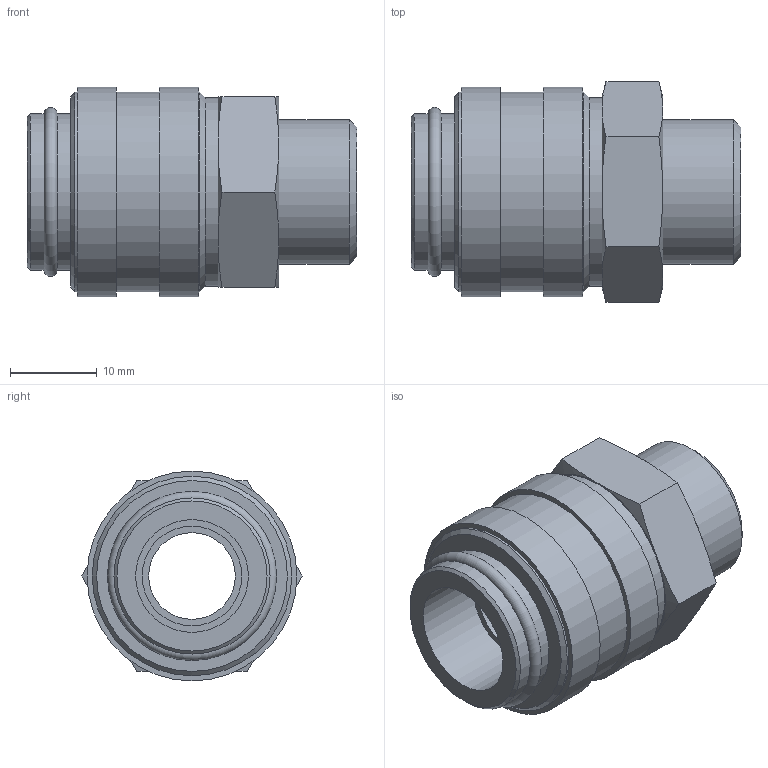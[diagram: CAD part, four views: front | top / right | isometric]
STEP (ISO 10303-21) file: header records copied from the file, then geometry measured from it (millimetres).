
FILE_DESCRIPTION( ( 'STEP AP203' ), ' ' );
FILE_NAME( 'p:/temp/worker_30/3380_1236/app_41_02016041908361915700884192d056f_000000_00_00_000000/format_0/MK2013R3_8.stp', '2016-04-19T06:36:20', ( '' ), ( '' ), ' ', 'PARTsolutions', ' ' );
FILE_SCHEMA( ( 'CONFIG_CONTROL_DESIGN' ) );
Length unit declared in the file: millimetre
Products named in the file (1): _MK2013R3/8
Bounding box: 38 x 25.4 x 24.2 mm (x, y, z)
Volume: 9967.5 mm3; surface area: 5059.2 mm2
Topology: 1 solids, 1 shells, 47 faces, 88 edges, 52 vertices
Faces by surface type: plane 17, cone 17, cylinder 12, torus 1
Full cylindrical faces by diameter (mm): 10 x1, 11.5 x1, 13 x1, 16.662 x1, 18 x2, 21.78 x1, 23 x3, 24.2 x2
Entity records: 1196 total; most frequent: CARTESIAN_POINT 291, DIRECTION 182, ORIENTED_EDGE 140, AXIS2_PLACEMENT_3D 88, EDGE_LOOP 76, EDGE_CURVE 70, FACE_OUTER_BOUND 60, VERTEX_POINT 53
